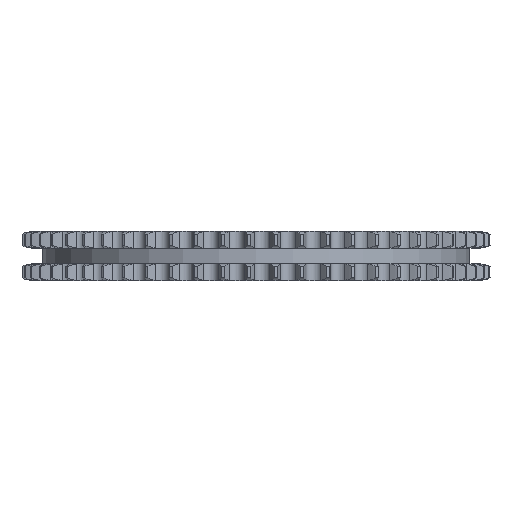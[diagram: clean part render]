
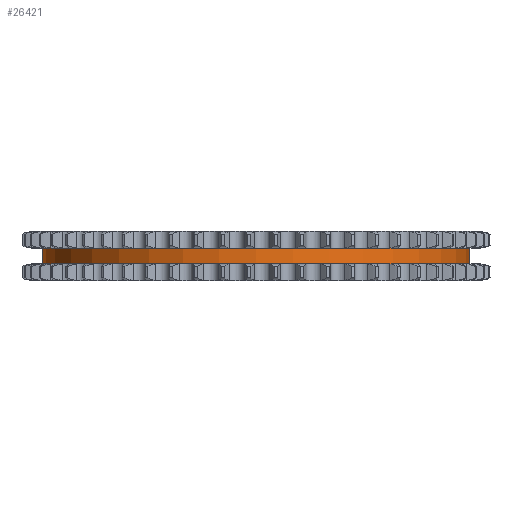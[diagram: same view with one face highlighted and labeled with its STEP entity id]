
A CAD part, left-side view. The second image highlights one B-rep face of the part: STEP entity #26421.
In plain terms, the highlighted cylindrical face has radius 207.46 mm (diameter 414.921 mm), a partial arc.
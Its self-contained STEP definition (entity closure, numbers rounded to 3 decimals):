
#4914=DIRECTION('',(0.,0.,-1.));
#4915=VECTOR('',#4914,15.3);
#4916=CARTESIAN_POINT('',(0.,207.46,7.65));
#4917=LINE('',#4916,#4915);
#4921=CARTESIAN_POINT('',(0.,0.,7.65));
#4922=DIRECTION('',(0.,0.,1.));
#4923=DIRECTION('',(0.,1.,0.));
#4924=AXIS2_PLACEMENT_3D('',#4921,#4922,#4923);
#4929=DIRECTION('',(0.,0.,-1.));
#4930=VECTOR('',#4929,15.3);
#4931=CARTESIAN_POINT('',(0.,-207.46,7.65));
#4932=LINE('',#4931,#4930);
#4936=CARTESIAN_POINT('',(0.,0.,-7.65));
#4937=DIRECTION('',(0.,0.,1.));
#4938=DIRECTION('',(0.,1.,0.));
#4939=AXIS2_PLACEMENT_3D('',#4936,#4937,#4938);
#20994=CARTESIAN_POINT('',(0.,207.46,7.65));
#20995=CARTESIAN_POINT('',(0.,207.46,-7.65));
#20996=VERTEX_POINT('',#20994);
#20997=VERTEX_POINT('',#20995);
#20998=CARTESIAN_POINT('',(0.,-207.46,7.65));
#20999=CARTESIAN_POINT('',(0.,-207.46,-7.65));
#21000=VERTEX_POINT('',#20998);
#21001=VERTEX_POINT('',#20999);
#26409=CARTESIAN_POINT('',(0.,0.,8.415));
#26410=DIRECTION('',(0.,0.,-1.));
#26411=DIRECTION('',(0.,-1.,0.));
#26412=AXIS2_PLACEMENT_3D('',#26409,#26410,#26411);
#26413=CYLINDRICAL_SURFACE('',#26412,207.46);
#26414=ORIENTED_EDGE('',*,*,#26399,.F.);
#26415=ORIENTED_EDGE('',*,*,#26389,.T.);
#26416=ORIENTED_EDGE('',*,*,#26403,.T.);
#26418=ORIENTED_EDGE('',*,*,#26417,.F.);
#26419=EDGE_LOOP('',(#26414,#26415,#26416,#26418));
#26420=FACE_OUTER_BOUND('',#26419,.F.);
#26421=ADVANCED_FACE('',(#26420),#26413,.T.);
#4925=CIRCLE('',#4924,207.46);
#4940=CIRCLE('',#4939,207.46);
#26389=EDGE_CURVE('',#20996,#21000,#4925,.T.);
#26399=EDGE_CURVE('',#20996,#20997,#4917,.T.);
#26403=EDGE_CURVE('',#21000,#21001,#4932,.T.);
#26417=EDGE_CURVE('',#20997,#21001,#4940,.T.);
